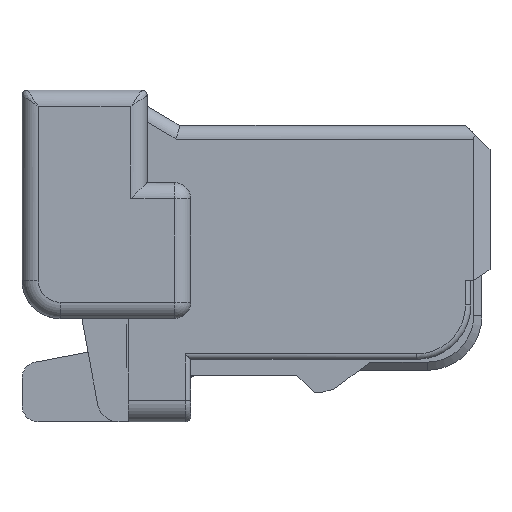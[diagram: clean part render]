
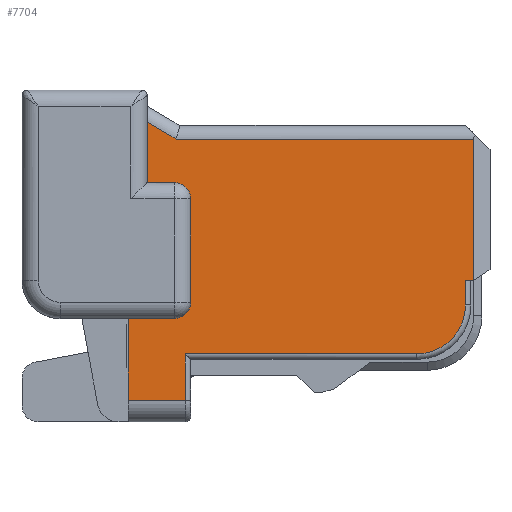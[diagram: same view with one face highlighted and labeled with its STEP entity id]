
A CAD part, front view. The second image highlights one B-rep face of the part: STEP entity #7704.
In plain terms, the highlighted planar face has unit normal (0, -1, 0).
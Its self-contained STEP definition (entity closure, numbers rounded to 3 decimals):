
#16 = CARTESIAN_POINT ( 'NONE',  ( 5.85, -5.1, -3.5 ) ) ;
#161 = DIRECTION ( 'NONE',  ( 1., 0., 0. ) ) ;
#307 = LINE ( 'NONE', #18020, #24648 ) ;
#412 = VERTEX_POINT ( 'NONE', #25883 ) ;
#887 = DIRECTION ( 'NONE',  ( 1., 0., 0. ) ) ;
#1170 = CARTESIAN_POINT ( 'NONE',  ( 0.7, -5.1, -5.7 ) ) ;
#1630 = CARTESIAN_POINT ( 'NONE',  ( 0.5, -5.1, -2. ) ) ;
#1699 = VERTEX_POINT ( 'NONE', #13030 ) ;
#1774 = AXIS2_PLACEMENT_3D ( 'NONE', #17760, #23951, #26252 ) ;
#1830 = DIRECTION ( 'NONE',  ( 0., 0., -1. ) ) ;
#1872 = AXIS2_PLACEMENT_3D ( 'NONE', #26237, #2189, #10691 ) ;
#2071 = CARTESIAN_POINT ( 'NONE',  ( 6., -5.1, -0.9 ) ) ;
#2189 = DIRECTION ( 'NONE',  ( 0., 1., 0. ) ) ;
#2241 = VECTOR ( 'NONE', #15409, 1000. ) ;
#2326 = DIRECTION ( 'NONE',  ( 0., 0., 1. ) ) ;
#2659 = VECTOR ( 'NONE', #3030, 1000. ) ;
#2796 = CIRCLE ( 'NONE', #1872, 0.9 ) ;
#3030 = DIRECTION ( 'NONE',  ( 1., 0., 0. ) ) ;
#3100 = ORIENTED_EDGE ( 'NONE', *, *, #5232, .F. ) ;
#3105 = ORIENTED_EDGE ( 'NONE', *, *, #27084, .F. ) ;
#3551 = EDGE_CURVE ( 'NONE', #23120, #1699, #17316, .T. ) ;
#3706 = ORIENTED_EDGE ( 'NONE', *, *, #25347, .T. ) ;
#3912 = LINE ( 'NONE', #26076, #22896 ) ;
#3950 = DIRECTION ( 'NONE',  ( 0., 1., 0. ) ) ;
#4002 = EDGE_CURVE ( 'NONE', #18119, #15228, #13765, .T. ) ;
#4785 = ORIENTED_EDGE ( 'NONE', *, *, #10283, .F. ) ;
#5081 = CARTESIAN_POINT ( 'NONE',  ( 0., -5.1, -1.7 ) ) ;
#5232 = EDGE_CURVE ( 'NONE', #24589, #13330, #6638, .T. ) ;
#5247 = CARTESIAN_POINT ( 'NONE',  ( 0.7, -5.1, -4.85 ) ) ;
#5255 = CARTESIAN_POINT ( 'NONE',  ( 5.85, -5.1, -3.5 ) ) ;
#5499 = ORIENTED_EDGE ( 'NONE', *, *, #8307, .T. ) ;
#5765 = ORIENTED_EDGE ( 'NONE', *, *, #12991, .T. ) ;
#6047 = ORIENTED_EDGE ( 'NONE', *, *, #18003, .T. ) ;
#6244 = EDGE_CURVE ( 'NONE', #7846, #12976, #8671, .T. ) ;
#6250 = VECTOR ( 'NONE', #21804, 1000. ) ;
#6452 = VECTOR ( 'NONE', #23794, 1000. ) ;
#6638 = LINE ( 'NONE', #16, #2241 ) ;
#7190 = CARTESIAN_POINT ( 'NONE',  ( -0.35, -5.1, -5.7 ) ) ;
#7704 = ADVANCED_FACE ( 'NONE', ( #15425 ), #23783, .F. ) ;
#7737 = CARTESIAN_POINT ( 'NONE',  ( 6., -5.1, -3.5 ) ) ;
#7846 = VERTEX_POINT ( 'NONE', #18730 ) ;
#8033 = VECTOR ( 'NONE', #10383, 1000. ) ;
#8148 = VECTOR ( 'NONE', #23411, 1000. ) ;
#8307 = EDGE_CURVE ( 'NONE', #12173, #7846, #21563, .T. ) ;
#8413 = LINE ( 'NONE', #2071, #6250 ) ;
#8671 = CIRCLE ( 'NONE', #1774, 0.3 ) ;
#9014 = VERTEX_POINT ( 'NONE', #7190 ) ;
#9316 = CARTESIAN_POINT ( 'NONE',  ( 0.8, -5.1, -2. ) ) ;
#9657 = VECTOR ( 'NONE', #24711, 1000. ) ;
#10026 = ORIENTED_EDGE ( 'NONE', *, *, #17575, .T. ) ;
#10283 = EDGE_CURVE ( 'NONE', #13330, #18435, #2796, .T. ) ;
#10383 = DIRECTION ( 'NONE',  ( 1., 0., 0. ) ) ;
#10691 = DIRECTION ( 'NONE',  ( 1., 0., 0. ) ) ;
#10750 = ORIENTED_EDGE ( 'NONE', *, *, #6244, .T. ) ;
#10942 = VECTOR ( 'NONE', #887, 1000. ) ;
#11065 = EDGE_CURVE ( 'NONE', #1699, #15228, #17823, .T. ) ;
#11124 = DIRECTION ( 'NONE',  ( 0., 0., 1. ) ) ;
#11475 = VERTEX_POINT ( 'NONE', #5247 ) ;
#11675 = LINE ( 'NONE', #5081, #10942 ) ;
#12098 = ORIENTED_EDGE ( 'NONE', *, *, #17722, .T. ) ;
#12173 = VERTEX_POINT ( 'NONE', #9316 ) ;
#12213 = EDGE_LOOP ( 'NONE', ( #6047, #4785, #3100, #21816, #25433, #25778, #17378, #14532, #10026, #5765, #5499, #10750, #3105, #23393, #12098, #3706 ) ) ;
#12263 = VERTEX_POINT ( 'NONE', #7737 ) ;
#12457 = CARTESIAN_POINT ( 'NONE',  ( -0.35, -5.1, -5.7 ) ) ;
#12502 = DIRECTION ( 'NONE',  ( 1., 0., 0. ) ) ;
#12976 = VERTEX_POINT ( 'NONE', #21367 ) ;
#12991 = EDGE_CURVE ( 'NONE', #16352, #12173, #17746, .T. ) ;
#13030 = CARTESIAN_POINT ( 'NONE',  ( 0.532, -5.1, -0.9 ) ) ;
#13330 = VERTEX_POINT ( 'NONE', #22157 ) ;
#13765 = LINE ( 'NONE', #18098, #9657 ) ;
#14421 = AXIS2_PLACEMENT_3D ( 'NONE', #19889, #26364, #161 ) ;
#14532 = ORIENTED_EDGE ( 'NONE', *, *, #4002, .F. ) ;
#14841 = VECTOR ( 'NONE', #1830, 1000. ) ;
#15228 = VERTEX_POINT ( 'NONE', #22061 ) ;
#15409 = DIRECTION ( 'NONE',  ( 0., 0., -1. ) ) ;
#15425 = FACE_OUTER_BOUND ( 'NONE', #12213, .T. ) ;
#16352 = VERTEX_POINT ( 'NONE', #21646 ) ;
#16672 = VERTEX_POINT ( 'NONE', #1170 ) ;
#17316 = LINE ( 'NONE', #25663, #6452 ) ;
#17378 = ORIENTED_EDGE ( 'NONE', *, *, #11065, .T. ) ;
#17575 = EDGE_CURVE ( 'NONE', #18119, #16352, #11675, .T. ) ;
#17722 = EDGE_CURVE ( 'NONE', #9014, #16672, #3912, .T. ) ;
#17746 = CIRCLE ( 'NONE', #21425, 0.3 ) ;
#17760 = CARTESIAN_POINT ( 'NONE',  ( 0.5, -5.1, -3.9 ) ) ;
#17823 = LINE ( 'NONE', #26450, #28307 ) ;
#18003 = EDGE_CURVE ( 'NONE', #11475, #18435, #18724, .T. ) ;
#18020 = CARTESIAN_POINT ( 'NONE',  ( 0.7, -5.1, -5.7 ) ) ;
#18087 = CARTESIAN_POINT ( 'NONE',  ( 5.85, -5.1, -3.5 ) ) ;
#18098 = CARTESIAN_POINT ( 'NONE',  ( 0., -5.1, -1.7 ) ) ;
#18115 = CARTESIAN_POINT ( 'NONE',  ( 6., -5.1, -0.9 ) ) ;
#18119 = VERTEX_POINT ( 'NONE', #23597 ) ;
#18435 = VERTEX_POINT ( 'NONE', #23278 ) ;
#18724 = LINE ( 'NONE', #27500, #19711 ) ;
#18730 = CARTESIAN_POINT ( 'NONE',  ( 0.8, -5.1, -3.9 ) ) ;
#19245 = LINE ( 'NONE', #12457, #8148 ) ;
#19711 = VECTOR ( 'NONE', #12502, 1000. ) ;
#19889 = CARTESIAN_POINT ( 'NONE',  ( 0., -5.1, 0. ) ) ;
#20340 = EDGE_CURVE ( 'NONE', #9014, #412, #19245, .T. ) ;
#20592 = LINE ( 'NONE', #27356, #2659 ) ;
#21367 = CARTESIAN_POINT ( 'NONE',  ( 0.5, -5.1, -4.2 ) ) ;
#21425 = AXIS2_PLACEMENT_3D ( 'NONE', #1630, #3950, #11124 ) ;
#21473 = DIRECTION ( 'NONE',  ( 1., 0., 0. ) ) ;
#21563 = LINE ( 'NONE', #24000, #14841 ) ;
#21646 = CARTESIAN_POINT ( 'NONE',  ( 0.5, -5.1, -1.7 ) ) ;
#21804 = DIRECTION ( 'NONE',  ( 0., 0., -1. ) ) ;
#21816 = ORIENTED_EDGE ( 'NONE', *, *, #22487, .T. ) ;
#22061 = CARTESIAN_POINT ( 'NONE',  ( 0., -5.1, -0.589 ) ) ;
#22157 = CARTESIAN_POINT ( 'NONE',  ( 5.85, -5.1, -3.95 ) ) ;
#22487 = EDGE_CURVE ( 'NONE', #24589, #12263, #27129, .T. ) ;
#22896 = VECTOR ( 'NONE', #21473, 1000. ) ;
#23120 = VERTEX_POINT ( 'NONE', #18115 ) ;
#23278 = CARTESIAN_POINT ( 'NONE',  ( 4.95, -5.1, -4.85 ) ) ;
#23393 = ORIENTED_EDGE ( 'NONE', *, *, #20340, .F. ) ;
#23411 = DIRECTION ( 'NONE',  ( 0., 0., 1. ) ) ;
#23597 = CARTESIAN_POINT ( 'NONE',  ( 0., -5.1, -1.7 ) ) ;
#23783 = PLANE ( 'NONE',  #14421 ) ;
#23794 = DIRECTION ( 'NONE',  ( -1., 0., 0. ) ) ;
#23951 = DIRECTION ( 'NONE',  ( 0., 1., 0. ) ) ;
#24000 = CARTESIAN_POINT ( 'NONE',  ( 0.8, -5.1, -2. ) ) ;
#24436 = DIRECTION ( 'NONE',  ( -0.864, 0., 0.504 ) ) ;
#24589 = VERTEX_POINT ( 'NONE', #18087 ) ;
#24648 = VECTOR ( 'NONE', #2326, 1000. ) ;
#24711 = DIRECTION ( 'NONE',  ( 0., 0., 1. ) ) ;
#24810 = EDGE_CURVE ( 'NONE', #23120, #12263, #8413, .T. ) ;
#25347 = EDGE_CURVE ( 'NONE', #16672, #11475, #307, .T. ) ;
#25433 = ORIENTED_EDGE ( 'NONE', *, *, #24810, .F. ) ;
#25663 = CARTESIAN_POINT ( 'NONE',  ( 6., -5.1, -0.9 ) ) ;
#25778 = ORIENTED_EDGE ( 'NONE', *, *, #3551, .T. ) ;
#25883 = CARTESIAN_POINT ( 'NONE',  ( -0.35, -5.1, -4.2 ) ) ;
#26076 = CARTESIAN_POINT ( 'NONE',  ( -0.35, -5.1, -5.7 ) ) ;
#26237 = CARTESIAN_POINT ( 'NONE',  ( 4.95, -5.1, -3.95 ) ) ;
#26252 = DIRECTION ( 'NONE',  ( 1., 0., 0. ) ) ;
#26364 = DIRECTION ( 'NONE',  ( 0., 1., 0. ) ) ;
#26450 = CARTESIAN_POINT ( 'NONE',  ( 0.532, -5.1, -0.9 ) ) ;
#27084 = EDGE_CURVE ( 'NONE', #412, #12976, #20592, .T. ) ;
#27129 = LINE ( 'NONE', #5255, #8033 ) ;
#27356 = CARTESIAN_POINT ( 'NONE',  ( -0.35, -5.1, -4.2 ) ) ;
#27500 = CARTESIAN_POINT ( 'NONE',  ( 0.7, -5.1, -4.85 ) ) ;
#28307 = VECTOR ( 'NONE', #24436, 1000. ) ;
